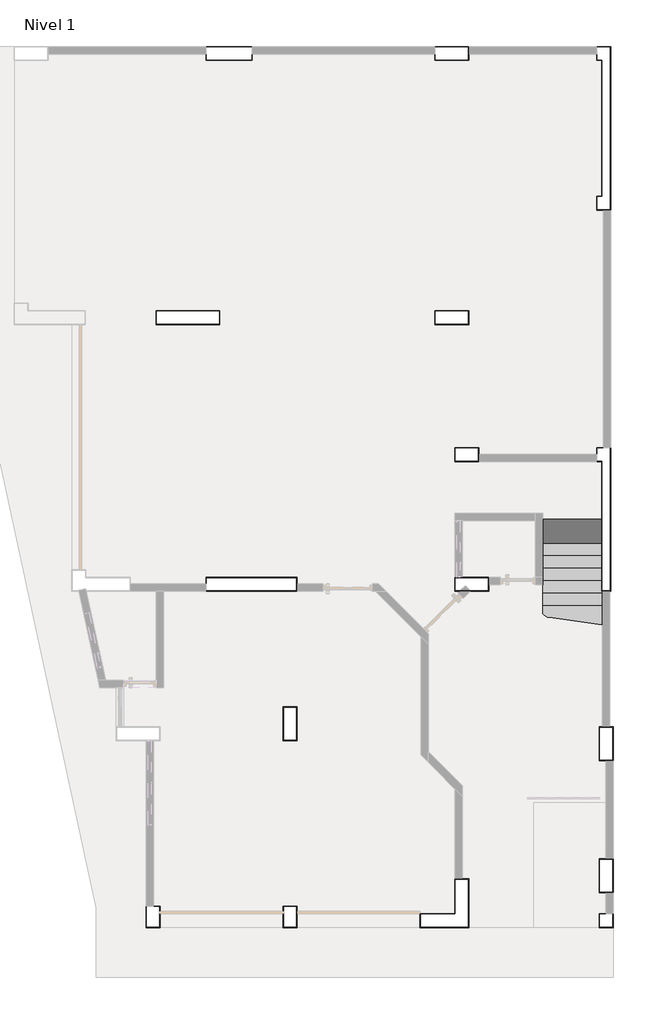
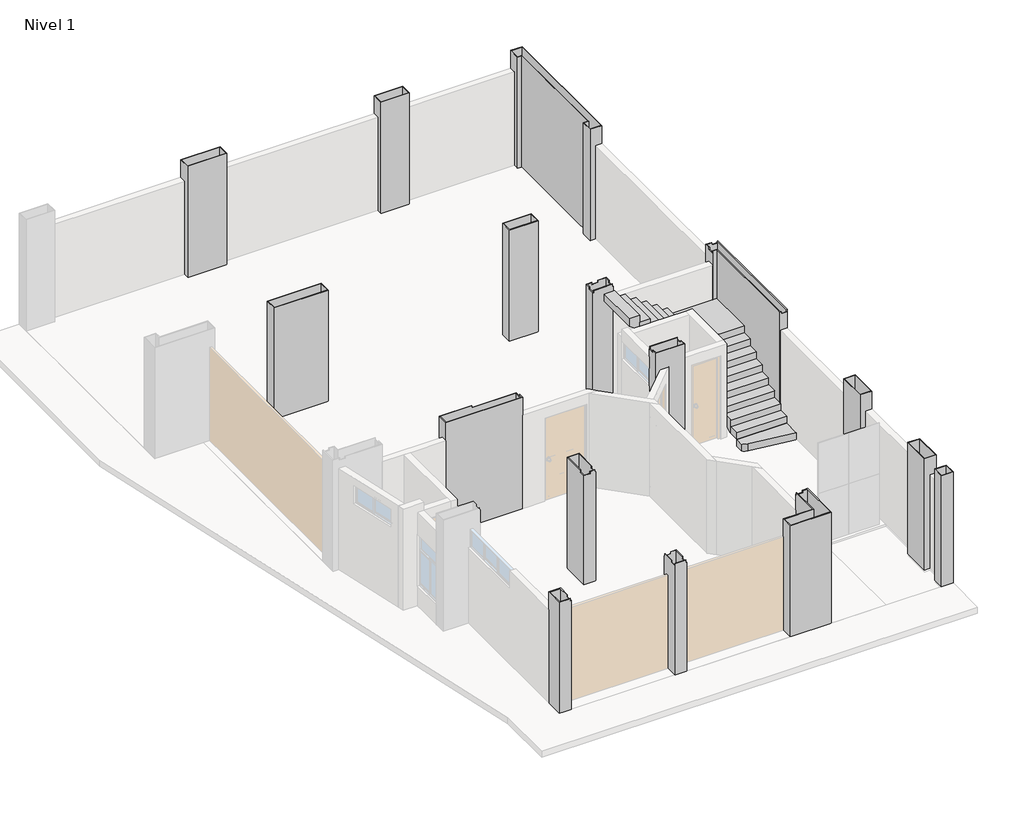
# One storey, part 2 of 2: 16 columns, 1 stair flight.
"""IFC4 building model written with IfcOpenShell, lengths in millimetres."""

import ifcopenshell
import ifcopenshell.guid

model = None  # the IFC model being written
_history = None  # IfcOwnerHistory: only IFC2X3 demands one
_inside = {}  # id of a spatial element -> (the spatial element, [elements in it])
_under = {}  # id of a project, library or spatial element -> (it, [spatial elements below it])
_declared = {}  # id of a project -> (the project, [libraries it declares])
_typed = {}  # id of a type object -> (the type object, [elements of that type])
_made_of = {}  # id of a material, layer set ... -> (it, [elements and type objects made of it])


def new_model(schema):
    """Start an empty IFC model of exactly this schema.

    Asked for "IFC4X3", IfcOpenShell would pick the latest addendum, in which some entities
    have other attributes; the version numbers below select the first issue.
    IFC2X3 requires an IfcOwnerHistory on every rooted entity: one is made here for all.
    """
    global model, _history
    if schema == "IFC4X3":
        model = ifcopenshell.file(schema_version=(4, 3, 0, 0))
    else:
        model = ifcopenshell.file(schema=schema)
    _inside.clear()
    _under.clear()
    _declared.clear()
    _typed.clear()
    _made_of.clear()
    _history = None
    if model.schema == "IFC2X3":
        org = make("IfcOrganization", Name="unknown")
        user = make(
            "IfcPersonAndOrganization",
            ThePerson=make("IfcPerson", FamilyName="unknown"),
            TheOrganization=org,
        )
        app = make(
            "IfcApplication",
            ApplicationDeveloper=org,
            Version="unknown",
            ApplicationFullName="unknown",
            ApplicationIdentifier="unknown",
        )
        _history = make(
            "IfcOwnerHistory",
            OwningUser=user,
            OwningApplication=app,
            ChangeAction="ADDED",
            CreationDate=0,
        )
    return model


def make(cls, **values):
    """One entity of the class cls with the attributes given. An attribute that is None is left unset."""
    return model.create_entity(
        cls, **{name: value for name, value in values.items() if value is not None}
    )


def rooted(cls, **values):
    """An entity with a GlobalId (a new one), such as an element, a storey or a relation."""
    return make(cls, GlobalId=ifcopenshell.guid.new(), OwnerHistory=_history, **values)


def si_unit(unit_type, name, prefix=None):
    """IfcSIUnit, for example si_unit("LENGTHUNIT", "METRE", prefix="MILLI")."""
    return make("IfcSIUnit", UnitType=unit_type, Prefix=prefix, Name=name)


def assignment(units):
    """IfcUnitAssignment: the units of a project."""
    return None if units is None else make("IfcUnitAssignment", Units=units)


def point(xyz):
    """IfcCartesianPoint."""
    return None if xyz is None else make("IfcCartesianPoint", Coordinates=xyz)


def direction(xyz):
    """IfcDirection."""
    return None if xyz is None else make("IfcDirection", DirectionRatios=xyz)


def frame(location, z_axis=None, x_axis=None):
    """IfcAxis2Placement3D, a coordinate frame: its origin and axes. An axis left out is left unset."""
    return make(
        "IfcAxis2Placement3D",
        Location=point(location),
        Axis=direction(z_axis),
        RefDirection=direction(x_axis),
    )


def origin():
    """The frame at (0, 0, 0) with its axes left unset."""
    return frame((0.0, 0.0, 0.0))


def place(relative_to, where):
    """IfcLocalPlacement: puts the frame where relative to a parent placement (None: the world)."""
    return make(
        "IfcLocalPlacement", PlacementRelTo=relative_to, RelativePlacement=where
    )


def context(
    kind, dimensions, precision=None, world=None, true_north=None, identifier=None
):
    """IfcGeometricRepresentationContext, for example the 3D "Model" context."""
    return make(
        "IfcGeometricRepresentationContext",
        ContextIdentifier=identifier,
        ContextType=kind,
        CoordinateSpaceDimension=dimensions,
        Precision=precision,
        WorldCoordinateSystem=world,
        TrueNorth=true_north,
    )


def project(units=None, contexts=None):
    """IfcProject with its units and contexts."""
    return rooted(
        "IfcProject",
        Name="project",
        RepresentationContexts=contexts,
        UnitsInContext=assignment(units),
    )


def spatial(cls, under=None, at=None, **own):
    """A site, building, storey or space (cls), placed at a placement, below another one or the project."""
    s = rooted(cls, ObjectPlacement=at, **own)
    if under is not None:
        _under.setdefault(under.id(), (under, []))[1].append(s)
    return s


def circle_curve(where, radius):
    """IfcCircle in the frame where."""
    return make("IfcCircle", Position=where, Radius=radius)


def faces_of(points, faces, orient=None, outer=None):
    """IfcFace entities. A face is a list of loops; a loop is a list of indices into points, from 0.

    orient and outer hold one flag for each loop. By default every Orientation is true, the
    first loop of a face is its IfcFaceOuterBound and the others are IfcFaceBound.
    """
    made = []
    for i, loops in enumerate(faces):
        bounds = []
        for j, loop in enumerate(loops):
            is_outer = j == 0 if outer is None else outer[i][j]
            bounds.append(
                make(
                    "IfcFaceOuterBound" if is_outer else "IfcFaceBound",
                    Bound=make("IfcPolyLoop", Polygon=[points[k] for k in loop]),
                    Orientation=True if orient is None else orient[i][j],
                )
            )
        made.append(make("IfcFace", Bounds=bounds))
    return made


def faceted_brep(points, faces, orient=None, outer=None, voids=None):
    """IfcFacetedBrep: a solid bounded by flat faces; with voids (closed shells), ...WithVoids."""
    shared = [point(p) for p in points]
    hull = make("IfcClosedShell", CfsFaces=faces_of(shared, faces, orient, outer))
    if voids is None:
        return make("IfcFacetedBrep", Outer=hull)
    return make(
        "IfcFacetedBrepWithVoids",
        Outer=hull,
        Voids=[
            make(cls, CfsFaces=faces_of(shared, fs, o, b)) for cls, fs, o, b in voids
        ],
    )


def shape(context_of_items, identifier, shape_type, items):
    """IfcShapeRepresentation: the items that make up one representation, for example the "Body"."""
    return make(
        "IfcShapeRepresentation",
        ContextOfItems=context_of_items,
        RepresentationIdentifier=identifier,
        RepresentationType=shape_type,
        Items=items,
    )


def made_of(thing, what):
    """Note that an element or type object is made of a material, layer set ...; save() writes the relation."""
    if what is not None:
        _made_of.setdefault(what.id(), (what, []))[1].append(thing)
    return thing


def element(
    cls,
    number,
    at=None,
    inside=None,
    cuts=None,
    type_object=None,
    material=None,
    context=None,
    identifier="Body",
    shape_type=None,
    held_by="IfcProductDefinitionShape",
    body=None,
    shapes=None,
    **own,
):
    """One element of the class cls, such as IfcWall. Its Tag is "e" and its number.

    at: its placement. inside: the storey or other place that contains it. cuts: it is an
    opening in that element (IfcRelVoidsElement). A single representation is given by context,
    identifier, shape_type and body (its items); several are given by shapes. held_by: the class
    of the entity that holds the representations. save() writes the other relations.
    """
    e = rooted(cls, Tag="e%d" % number, ObjectPlacement=at, **own)
    if body is not None:
        shapes = [shape(context, identifier, shape_type, body)]
    if shapes is not None:
        e.Representation = make(held_by, Representations=shapes)
    if inside is not None:
        _inside.setdefault(inside.id(), (inside, []))[1].append(e)
    if cuts is not None:
        rooted(
            "IfcRelVoidsElement", RelatingBuildingElement=cuts, RelatedOpeningElement=e
        )
    if type_object is not None:
        _typed.setdefault(type_object.id(), (type_object, []))[1].append(e)
    return made_of(e, material)


def aggregate(whole, parts):
    """IfcRelAggregates: a whole, such as a stair, and the parts it consists of."""
    return rooted("IfcRelAggregates", RelatingObject=whole, RelatedObjects=parts)


def save(model, path):
    """Write the relations noted so far, then the file.

    IfcRelAggregates (storeys below a building ...), IfcRelContainedInSpatialStructure (elements
    in a storey), IfcRelDefinesByType, IfcRelAssociatesMaterial and IfcRelDeclares: one each for
    every whole, place, type object, material and project.
    """
    for whole, parts in _under.values():
        aggregate(whole, parts)
    for where, things in _inside.values():
        rooted(
            "IfcRelContainedInSpatialStructure",
            RelatedElements=things,
            RelatingStructure=where,
        )
    for kind, things in _typed.values():
        rooted("IfcRelDefinesByType", RelatedObjects=things, RelatingType=kind)
    for what, things in _made_of.values():
        rooted("IfcRelAssociatesMaterial", RelatedObjects=things, RelatingMaterial=what)
    for by, libraries in _declared.values():
        rooted("IfcRelDeclares", RelatingContext=by, RelatedDefinitions=libraries)
    model.write(path)


def plane_surface(at):
    """IfcPlane: the flat surface through the origin of the frame at, square to its z axis."""
    return make("IfcPlane", Position=at)


def cylinder_surface(at, radius):
    """IfcCylindricalSurface: all points at the distance radius from the z axis of the frame at."""
    return make("IfcCylindricalSurface", Position=at, Radius=radius)


def advanced_brep(points, edges, surfaces, faces):
    """IfcAdvancedBrep: a solid bounded by faces that lie on surfaces and meet in shared edges.

    An edge is (start, end): straight between two places in points (the first is 0);
    or (start, end, curve); or (start, end, curve, False) where it runs against its curve.
    A face is (place in surfaces, loops), or (place, loops, False) where it looks against
    its surface's normal. A loop lists edges by number (the first is 1), with a minus sign
    where the edge is run from its end to its start. The first loop is the outer one.
    """
    corners = [point(p) for p in points]
    vertices = [make("IfcVertexPoint", VertexGeometry=c) for c in corners]
    made = []
    for start, end, *more in edges:
        made.append(
            make(
                "IfcEdgeCurve",
                EdgeStart=vertices[start],
                EdgeEnd=vertices[end],
                EdgeGeometry=more[0] if more else make("IfcPolyline", Points=[corners[start], corners[end]]),
                SameSense=more[1] if len(more) > 1 else True,
            )
        )
    hull = []
    for where, loops, *sense in faces:
        bounds = []
        for j, loop in enumerate(loops):
            ring = [make("IfcOrientedEdge", EdgeElement=made[abs(k) - 1], Orientation=k > 0) for k in loop]
            bounds.append(
                make(
                    "IfcFaceOuterBound" if j == 0 else "IfcFaceBound",
                    Bound=make("IfcEdgeLoop", EdgeList=ring),
                    Orientation=True,
                )
            )
        hull.append(make("IfcAdvancedFace", Bounds=bounds, FaceSurface=surfaces[where], SameSense=sense[0] if sense else True))
    return make("IfcAdvancedBrep", Outer=make("IfcClosedShell", CfsFaces=hull))


model = new_model("IFC4")

# Units and contexts
model_context = context("Model", 3, world=origin())
ifc_project = project(units=[si_unit("LENGTHUNIT", "METRE", prefix="MILLI")], contexts=[model_context])

# Site, building, storey
site = spatial("IfcSite", under=ifc_project)
building = spatial("IfcBuilding", under=site)
storey = spatial("IfcBuildingStorey", under=building, Name="Nivel 1", Elevation=0.0)

# Columns
placement = place(None, origin())
element("IfcColumn", 1, ObjectType="Columna U Arquitectonica : Columna U Arquitectonica", at=placement, inside=storey, context=model_context, shape_type="Brep", body=[
    faceted_brep([(9035.0, 14665.0, 0.0), (9135.0, 14665.0, 0.0), (9135.0, 17385.0, 0.0), (9035.0, 17385.0, 0.0), (9035.0, 17515.0, 0.0), (9035.0, 17665.0, 0.0), (9315.0, 17665.0, 0.0), (9315.0, 14385.0, 0.0), (9165.0, 14385.0, 0.0), (9035.0, 14385.0, 0.0), (9050.0, 14650.0, 0.0), (9050.0, 14400.0, 0.0), (9300.0, 14400.0, 0.0), (9300.0, 17650.0, 0.0), (9050.0, 17650.0, 0.0), (9050.0, 17400.0, 0.0), (9150.0, 17400.0, 0.0), (9150.0, 14650.0, 0.0), (9150.0, 14650.0, 2800.0), (9050.0, 14650.0, 2800.0), (9150.0, 17400.0, 2800.0), (9050.0, 17400.0, 2800.0), (9050.0, 17650.0, 2800.0), (9300.0, 17650.0, 2800.0), (9300.0, 14400.0, 2800.0), (9050.0, 14400.0, 2800.0), (9035.0, 14665.0, 2800.0), (9035.0, 14385.0, 2800.0), (9315.0, 14385.0, 2800.0), (9315.0, 17665.0, 2800.0), (9035.0, 17665.0, 2800.0), (9035.0, 17385.0, 2800.0), (9135.0, 17385.0, 2800.0), (9135.0, 14665.0, 2800.0), (9035.0, 17665.0, 2750.0), (9035.0, 17665.0, 2350.0), (9315.0, 14385.0, 2750.0), (9315.0, 14385.0, 2350.0), (9035.0, 14385.0, 2750.0)], [[[0, 1, 2, 3, 4, 5, 6, 7, 8, 9], [10, 11, 12, 13, 14, 15, 16, 17]], [[18, 19, 10, 17]], [[20, 18, 17, 16]], [[21, 20, 16, 15]], [[22, 21, 15, 14]], [[23, 22, 14, 13]], [[24, 23, 13, 12]], [[25, 24, 12, 11]], [[19, 25, 11, 10]], [[26, 27, 28, 29, 30, 31, 32, 33], [19, 18, 20, 21, 22, 23, 24, 25]], [[26, 33, 1, 0]], [[33, 32, 2, 1]], [[32, 31, 3, 2]], [[31, 30, 34, 35, 5, 4, 3]], [[30, 29, 6, 5, 35, 34]], [[29, 28, 36, 37, 7, 6]], [[28, 27, 38, 9, 8, 7, 37, 36]], [[27, 26, 0, 9, 38]]]),
])
element("IfcColumn", 2, ObjectType="Columna L Arquitectonica : ACO_L 25x285x25x15 cm", at=placement, inside=storey, context=model_context, shape_type="Brep", body=[
    faceted_brep([(9135.0, 6735.0, 0.0), (9135.0, 9335.0, 0.0), (9035.0, 9335.0, 0.0), (9035.0, 9485.0, 0.0), (9035.0, 9615.0, 0.0), (9165.0, 9615.0, 0.0), (9315.0, 9615.0, 0.0), (9315.0, 6735.0, 0.0), (9300.0, 6735.0, 0.0), (9150.0, 6735.0, 0.0), (9150.0, 6750.0, 0.0), (9300.0, 6750.0, 0.0), (9300.0, 9600.0, 0.0), (9050.0, 9600.0, 0.0), (9050.0, 9350.0, 0.0), (9150.0, 9350.0, 0.0), (9150.0, 6750.0, 2800.0), (9165.0, 6750.0, 2800.0), (9165.0, 6750.0, 2750.0), (9300.0, 6750.0, 2750.0), (9300.0, 6750.0, 2800.0), (9300.0, 9600.0, 2800.0), (9300.0, 9600.0, 2750.0), (9165.0, 9600.0, 2750.0), (9165.0, 9600.0, 2800.0), (9050.0, 9600.0, 2800.0), (9050.0, 9485.0, 2800.0), (9050.0, 9485.0, 2750.0), (9050.0, 9350.0, 2750.0), (9050.0, 9350.0, 2800.0), (9150.0, 9350.0, 2800.0), (9135.0, 6735.0, 2800.0), (9135.0, 6865.0, 2800.0), (9135.0, 7015.0, 2800.0), (9135.0, 9335.0, 2800.0), (9050.0, 9335.0, 2800.0), (9050.0, 9335.0, 2750.0), (9035.0, 9335.0, 2750.0), (9035.0, 9335.0, 2450.0), (9035.0, 9485.0, 2750.0), (9035.0, 9485.0, 2800.0), (9035.0, 9615.0, 2800.0), (9165.0, 9615.0, 2800.0), (9165.0, 9615.0, 2750.0), (9315.0, 9615.0, 2750.0), (9315.0, 9615.0, 2350.0), (9315.0, 9600.0, 2750.0), (9315.0, 9600.0, 2800.0), (9315.0, 6750.0, 2800.0), (9315.0, 6750.0, 2750.0), (9315.0, 6735.0, 2750.0), (9165.0, 6735.0, 2750.0), (9165.0, 6735.0, 2800.0)], [[[0, 1, 2, 3, 4, 5, 6, 7, 8, 9], [10, 11, 12, 13, 14, 15]], [[11, 10, 16, 17, 18, 19]], [[12, 11, 19, 20, 21, 22]], [[13, 12, 22, 23, 24, 25]], [[14, 13, 25, 26, 27, 28]], [[15, 14, 28, 29, 30]], [[10, 15, 30, 16]], [[1, 0, 31, 32, 33, 34]], [[2, 1, 34, 35, 36, 37, 38]], [[4, 3, 2, 38, 37, 39, 40, 41]], [[6, 5, 4, 41, 42, 43, 44, 45]], [[7, 6, 45, 44, 46, 47, 48, 49, 50]], [[0, 9, 8, 7, 50, 51, 52, 31]], [[21, 20, 48, 47]], [[51, 18, 17, 52]], [[49, 19, 18, 51, 50]], [[19, 49, 48, 20]], [[23, 43, 42, 24]], [[22, 46, 44, 43, 23]], [[46, 22, 21, 47]], [[30, 29, 35, 34, 33, 32, 31, 52, 17, 16]], [[39, 27, 26, 40]], [[36, 28, 27, 39, 37]], [[28, 36, 35, 29]], [[25, 24, 42, 41, 40, 26]]]),
])
element("IfcColumn", 3, ObjectType="Columna L Arquitectonica : ACO_L 95x95x25 cm", at=placement, inside=storey, context=model_context, shape_type="Brep", body=[
    faceted_brep([(5485.0, 265.0, 0.0), (6185.0, 265.0, 0.0), (6185.0, 965.0, 0.0), (6335.0, 965.0, 0.0), (6465.0, 965.0, 0.0), (6465.0, -15.0, 0.0), (5485.0, -15.0, 0.0), (5500.0, 250.0, 0.0), (5500.0, 0.0, 0.0), (6450.0, 0.0, 0.0), (6450.0, 950.0, 0.0), (6200.0, 950.0, 0.0), (6200.0, 250.0, 0.0), (5500.0, 250.0, 2800.0), (5500.0, 0.0, 2800.0), (6450.0, 0.0, 2800.0), (6450.0, 950.0, 2800.0), (6335.0, 950.0, 2800.0), (6335.0, 950.0, 2750.0), (6200.0, 950.0, 2750.0), (6200.0, 950.0, 2800.0), (6200.0, 250.0, 2800.0), (5485.0, 265.0, 2800.0), (6185.0, 265.0, 2800.0), (6185.0, 950.0, 2800.0), (6185.0, 950.0, 2750.0), (6185.0, 965.0, 2750.0), (6185.0, 965.0, 2350.0), (6335.0, 965.0, 2750.0), (6335.0, 965.0, 2800.0), (6465.0, 965.0, 2800.0), (6465.0, -15.0, 2800.0), (6465.0, -15.0, 2750.0), (5485.0, -15.0, 2800.0), (5485.0, -15.0, 2750.0)], [[[0, 1, 2, 3, 4, 5, 6], [7, 8, 9, 10, 11, 12]], [[8, 7, 13, 14]], [[9, 8, 14, 15]], [[10, 9, 15, 16]], [[11, 10, 16, 17, 18, 19]], [[12, 11, 19, 20, 21]], [[7, 12, 21, 13]], [[1, 0, 22, 23]], [[2, 1, 23, 24, 25, 26, 27]], [[4, 3, 2, 27, 26, 28, 29, 30]], [[5, 4, 30, 31, 32]], [[6, 5, 32, 31, 33, 34]], [[0, 6, 34, 33, 22]], [[14, 13, 21, 20, 24, 23, 22, 33, 31, 30, 29, 17, 16, 15]], [[28, 18, 17, 29]], [[25, 19, 18, 28, 26]], [[19, 25, 24, 20]]]),
])
element("IfcColumn", 4, ObjectType="Columna Rectangular Arquitectonica : ACO_Rectangular 25x125 cm", at=placement, inside=storey, context=model_context, shape_type="Brep", body=[
    faceted_brep([(185.0, 12365.0, 0.0), (1465.0, 12365.0, 0.0), (1465.0, 12085.0, 0.0), (185.0, 12085.0, 0.0), (200.0, 12350.0, 0.0), (200.0, 12100.0, 0.0), (1450.0, 12100.0, 0.0), (1450.0, 12350.0, 0.0), (200.0, 12350.0, 2800.0), (200.0, 12100.0, 2800.0), (1450.0, 12100.0, 2800.0), (1450.0, 12350.0, 2800.0), (185.0, 12365.0, 2800.0), (1465.0, 12365.0, 2800.0), (185.0, 12365.0, 2750.0), (1465.0, 12085.0, 2800.0), (185.0, 12085.0, 2800.0)], [[[0, 1, 2, 3], [4, 5, 6, 7]], [[8, 9, 5, 4]], [[9, 10, 6, 5]], [[10, 11, 7, 6]], [[11, 8, 4, 7]], [[12, 13, 1, 0, 14]], [[13, 15, 2, 1]], [[15, 16, 3, 2]], [[16, 12, 14, 0, 3]], [[12, 16, 15, 13], [8, 11, 10, 9]]]),
])
element("IfcColumn", 5, ObjectType="Columna Rectangular Arquitectonica : ACO_Rectangular 25x180 cm", at=placement, inside=storey, context=model_context, shape_type="Brep", body=[
    faceted_brep([(1185.0, 7015.0, 0.0), (3015.0, 7015.0, 0.0), (3015.0, 6885.0, 0.0), (3015.0, 6735.0, 0.0), (1185.0, 6735.0, 0.0), (1185.0, 6885.0, 0.0), (1200.0, 7000.0, 0.0), (1200.0, 6750.0, 0.0), (3000.0, 6750.0, 0.0), (3000.0, 7000.0, 0.0), (1200.0, 7000.0, 2800.0), (1200.0, 6750.0, 2800.0), (3000.0, 6750.0, 2800.0), (3000.0, 6865.0, 2800.0), (3000.0, 6865.0, 2750.0), (3000.0, 7000.0, 2750.0), (1950.0, 7000.0, 2750.0), (1950.0, 7000.0, 2800.0), (1185.0, 7015.0, 2750.0), (1185.0, 7015.0, 2800.0), (1950.0, 7015.0, 2800.0), (1950.0, 7015.0, 2750.0), (3015.0, 7015.0, 2750.0), (3015.0, 6865.0, 2750.0), (3015.0, 6865.0, 2800.0), (3015.0, 6735.0, 2800.0), (3015.0, 6735.0, 2350.0), (1185.0, 6735.0, 2800.0), (1185.0, 6735.0, 2350.0)], [[[0, 1, 2, 3, 4, 5], [6, 7, 8, 9]], [[7, 6, 10, 11]], [[8, 7, 11, 12]], [[9, 8, 12, 13, 14, 15]], [[6, 9, 15, 16, 17, 10]], [[1, 0, 18, 19, 20, 21, 22]], [[3, 2, 1, 22, 23, 24, 25, 26]], [[4, 3, 26, 25, 27, 28]], [[0, 5, 4, 28, 27, 19, 18]], [[11, 10, 17, 20, 19, 27, 25, 24, 13, 12]], [[23, 14, 13, 24]], [[14, 23, 22, 21, 16, 15]], [[16, 21, 20, 17]]]),
])
element("IfcColumn", 6, ObjectType="Columna Rectangular Arquitectonica : ACO_Rectangular 25x25 cm", at=placement, inside=storey, context=model_context, shape_type="Brep", body=[
    faceted_brep([(9085.0, -15.0, 0.0), (9085.0, 265.0, 0.0), (9215.0, 265.0, 0.0), (9365.0, 265.0, 0.0), (9365.0, -15.0, 0.0), (9100.0, 0.0, 0.0), (9350.0, 0.0, 0.0), (9350.0, 250.0, 0.0), (9100.0, 250.0, 0.0), (9100.0, 0.0, 2800.0), (9350.0, 0.0, 2800.0), (9350.0, 250.0, 2800.0), (9100.0, 250.0, 2800.0), (9085.0, -15.0, 2800.0), (9085.0, 265.0, 2800.0), (9085.0, -15.0, 2750.0), (9365.0, 265.0, 2800.0), (9365.0, 265.0, 2750.0), (9365.0, 265.0, 2350.0), (9365.0, -15.0, 2800.0)], [[[0, 1, 2, 3, 4], [5, 6, 7, 8]], [[9, 10, 6, 5]], [[10, 11, 7, 6]], [[11, 12, 8, 7]], [[12, 9, 5, 8]], [[13, 14, 1, 0, 15]], [[14, 16, 17, 18, 3, 2, 1]], [[16, 19, 4, 3, 18, 17]], [[19, 13, 15, 0, 4]], [[13, 19, 16, 14], [9, 12, 11, 10]]]),
])
element("IfcColumn", 7, ObjectType="Columna Rectangular Arquitectonica : ACO_Rectangular 25x40 cm", at=placement, inside=storey, context=model_context, shape_type="Brep", body=[
    faceted_brep([(2735.0, -15.0, 0.0), (2735.0, 415.0, 0.0), (3015.0, 415.0, 0.0), (3015.0, -15.0, 0.0), (2750.0, 0.0, 0.0), (3000.0, 0.0, 0.0), (3000.0, 400.0, 0.0), (2750.0, 400.0, 0.0), (2750.0, 0.0, 2750.0), (2750.0, 0.0, 2800.0), (3000.0, 0.0, 2800.0), (3000.0, 0.0, 2750.0), (3000.0, 135.0, 2750.0), (3000.0, 135.0, 2800.0), (3000.0, 400.0, 2800.0), (2885.0, 400.0, 2800.0), (2885.0, 400.0, 2750.0), (2750.0, 400.0, 2750.0), (2750.0, 400.0, 2800.0), (2750.0, 135.0, 2800.0), (2750.0, 135.0, 2750.0), (2735.0, -15.0, 2750.0), (2735.0, 135.0, 2750.0), (2735.0, 135.0, 2800.0), (2735.0, 400.0, 2800.0), (2735.0, 400.0, 2750.0), (2735.0, 415.0, 2750.0), (2885.0, 415.0, 2750.0), (2885.0, 415.0, 2800.0), (3015.0, 415.0, 2800.0), (3015.0, 135.0, 2800.0), (3015.0, 135.0, 2750.0), (3015.0, -15.0, 2750.0), (3000.0, -15.0, 2750.0), (3000.0, -15.0, 2800.0), (2750.0, -15.0, 2800.0), (2750.0, -15.0, 2750.0)], [[[0, 1, 2, 3], [4, 5, 6, 7]], [[5, 4, 8, 9, 10, 11]], [[6, 5, 11, 12, 13, 14]], [[7, 6, 14, 15, 16, 17]], [[4, 7, 17, 18, 19, 20, 8]], [[1, 0, 21, 22, 23, 24, 25, 26]], [[2, 1, 26, 27, 28, 29]], [[3, 2, 29, 30, 31, 32]], [[0, 3, 32, 33, 34, 35, 36, 21]], [[10, 9, 35, 34]], [[27, 16, 15, 28]], [[25, 17, 16, 27, 26]], [[17, 25, 24, 18]], [[22, 20, 19, 23]], [[36, 8, 20, 22, 21]], [[8, 36, 35, 9]], [[12, 31, 30, 13]], [[11, 33, 32, 31, 12]], [[33, 11, 10, 34]], [[15, 14, 13, 30, 29, 28]], [[18, 24, 23, 19]]]),
])
element("IfcColumn", 8, ObjectType="Columna Rectangular Arquitectonica : ACO_Rectangular 25x40 cm", at=placement, inside=storey, context=model_context, shape_type="Brep", body=[
    faceted_brep([(-15.0, -15.0, 0.0), (-15.0, 415.0, 0.0), (135.0, 415.0, 0.0), (265.0, 415.0, 0.0), (265.0, -15.0, 0.0), (0.0, 0.0, 0.0), (250.0, 0.0, 0.0), (250.0, 400.0, 0.0), (0.0, 400.0, 0.0), (0.0, 0.0, 2800.0), (250.0, 0.0, 2800.0), (250.0, 0.0, 2750.0), (250.0, 135.0, 2750.0), (250.0, 135.0, 2800.0), (250.0, 400.0, 2800.0), (0.0, 400.0, 2800.0), (-15.0, -15.0, 2800.0), (-15.0, 415.0, 2800.0), (-15.0, 415.0, 2750.0), (-15.0, 415.0, 2350.0), (265.0, 415.0, 2800.0), (265.0, 135.0, 2800.0), (265.0, 135.0, 2750.0), (265.0, -15.0, 2750.0), (250.0, -15.0, 2750.0), (250.0, -15.0, 2800.0)], [[[0, 1, 2, 3, 4], [5, 6, 7, 8]], [[6, 5, 9, 10, 11]], [[7, 6, 11, 12, 13, 14]], [[8, 7, 14, 15]], [[5, 8, 15, 9]], [[1, 0, 16, 17, 18, 19]], [[3, 2, 1, 19, 18, 17, 20]], [[4, 3, 20, 21, 22, 23]], [[0, 4, 23, 24, 25, 16]], [[10, 9, 15, 14, 13, 21, 20, 17, 16, 25]], [[12, 22, 21, 13]], [[11, 24, 23, 22, 12]], [[24, 11, 10, 25]]]),
])
element("IfcColumn", 9, ObjectType="Columna Rectangular Arquitectonica : ACO_Rectangular 25x45 cm", at=placement, inside=storey, context=model_context, shape_type="Brep", body=[
    faceted_brep([(6185.0, 9615.0, 0.0), (6665.0, 9615.0, 0.0), (6665.0, 9485.0, 0.0), (6665.0, 9335.0, 0.0), (6185.0, 9335.0, 0.0), (6200.0, 9600.0, 0.0), (6200.0, 9350.0, 0.0), (6650.0, 9350.0, 0.0), (6650.0, 9600.0, 0.0), (6200.0, 9600.0, 2800.0), (6200.0, 9485.0, 2800.0), (6200.0, 9485.0, 2750.0), (6200.0, 9350.0, 2750.0), (6200.0, 9350.0, 2800.0), (6650.0, 9350.0, 2800.0), (6650.0, 9350.0, 2750.0), (6650.0, 9485.0, 2750.0), (6650.0, 9485.0, 2800.0), (6650.0, 9600.0, 2800.0), (6465.0, 9600.0, 2800.0), (6465.0, 9600.0, 2750.0), (6315.0, 9600.0, 2750.0), (6315.0, 9600.0, 2800.0), (6185.0, 9615.0, 2800.0), (6315.0, 9615.0, 2800.0), (6315.0, 9615.0, 2750.0), (6465.0, 9615.0, 2750.0), (6465.0, 9615.0, 2800.0), (6665.0, 9615.0, 2800.0), (6665.0, 9485.0, 2800.0), (6665.0, 9485.0, 2750.0), (6665.0, 9335.0, 2750.0), (6665.0, 9335.0, 2450.0), (6650.0, 9335.0, 2750.0), (6650.0, 9335.0, 2800.0), (6200.0, 9335.0, 2800.0), (6200.0, 9335.0, 2750.0), (6185.0, 9335.0, 2750.0), (6185.0, 9485.0, 2750.0), (6185.0, 9485.0, 2800.0)], [[[0, 1, 2, 3, 4], [5, 6, 7, 8]], [[6, 5, 9, 10, 11, 12]], [[7, 6, 12, 13, 14, 15]], [[8, 7, 15, 16, 17, 18]], [[5, 8, 18, 19, 20, 21, 22, 9]], [[1, 0, 23, 24, 25, 26, 27, 28]], [[3, 2, 1, 28, 29, 30, 31, 32]], [[4, 3, 32, 31, 33, 34, 35, 36, 37]], [[0, 4, 37, 38, 39, 23]], [[14, 13, 35, 34]], [[26, 20, 19, 27]], [[21, 25, 24, 22]], [[20, 26, 25, 21]], [[38, 11, 10, 39]], [[36, 12, 11, 38, 37]], [[12, 36, 35, 13]], [[16, 30, 29, 17]], [[15, 33, 31, 30, 16]], [[33, 15, 14, 34]], [[19, 18, 17, 29, 28, 27]], [[10, 9, 22, 24, 23, 39]]]),
])
element("IfcColumn", 10, ObjectType="Columna Rectangular Arquitectonica : ACO_Rectangular 25x65 cm", at=placement, inside=storey, context=model_context, shape_type="Brep", body=[
    faceted_brep([(5785.0, 17665.0, 0.0), (6465.0, 17665.0, 0.0), (6465.0, 17515.0, 0.0), (6465.0, 17385.0, 0.0), (5785.0, 17385.0, 0.0), (5785.0, 17515.0, 0.0), (5800.0, 17650.0, 0.0), (5800.0, 17400.0, 0.0), (6450.0, 17400.0, 0.0), (6450.0, 17650.0, 0.0), (5800.0, 17650.0, 2800.0), (5800.0, 17400.0, 2800.0), (6450.0, 17400.0, 2800.0), (6450.0, 17650.0, 2800.0), (5785.0, 17665.0, 2800.0), (6465.0, 17665.0, 2800.0), (6465.0, 17665.0, 2750.0), (6465.0, 17665.0, 2350.0), (5785.0, 17665.0, 2350.0), (5785.0, 17665.0, 2750.0), (6465.0, 17385.0, 2800.0), (5785.0, 17385.0, 2800.0), (5785.0, 17385.0, 2750.0)], [[[0, 1, 2, 3, 4, 5], [6, 7, 8, 9]], [[10, 11, 7, 6]], [[11, 12, 8, 7]], [[12, 13, 9, 8]], [[13, 10, 6, 9]], [[14, 15, 16, 17, 1, 0, 18, 19]], [[15, 20, 3, 2, 1, 17, 16]], [[20, 21, 22, 4, 3]], [[21, 14, 19, 18, 0, 5, 4, 22]], [[14, 21, 20, 15], [10, 13, 12, 11]]]),
])
element("IfcColumn", 11, ObjectType="Columna Rectangular Arquitectonica : ACO_Rectangular 25x65 cm", at=placement, inside=storey, context=model_context, shape_type="Brep", body=[
    faceted_brep([(5785.0, 12365.0, 0.0), (6465.0, 12365.0, 0.0), (6465.0, 12085.0, 0.0), (5785.0, 12085.0, 0.0), (5800.0, 12350.0, 0.0), (5800.0, 12100.0, 0.0), (6450.0, 12100.0, 0.0), (6450.0, 12350.0, 0.0), (5800.0, 12350.0, 2800.0), (5800.0, 12100.0, 2800.0), (6450.0, 12100.0, 2800.0), (6450.0, 12350.0, 2800.0), (5785.0, 12365.0, 2800.0), (6465.0, 12365.0, 2800.0), (6465.0, 12365.0, 2750.0), (5785.0, 12365.0, 2750.0), (6465.0, 12085.0, 2800.0), (6465.0, 12085.0, 2750.0), (5785.0, 12085.0, 2800.0)], [[[0, 1, 2, 3], [4, 5, 6, 7]], [[8, 9, 5, 4]], [[9, 10, 6, 5]], [[10, 11, 7, 6]], [[11, 8, 4, 7]], [[12, 13, 14, 1, 0, 15]], [[13, 16, 17, 2, 1, 14]], [[16, 18, 3, 2, 17]], [[18, 12, 15, 0, 3]], [[12, 18, 16, 13], [8, 11, 10, 9]]]),
])
element("IfcColumn", 12, ObjectType="Columna Rectangular Arquitectonica : ACO_Rectangular 25x65 cm", at=placement, inside=storey, context=model_context, shape_type="Brep", body=[
    faceted_brep([(6185.0, 7015.0, 0.0), (6335.0, 7015.0, 0.0), (6865.0, 7015.0, 0.0), (6865.0, 6865.0, 0.0), (6865.0, 6735.0, 0.0), (6494.3535517, 6735.0, 0.0), (6282.2215174, 6735.0, 0.0), (6185.0, 6735.0, 0.0), (6200.0, 7000.0, 0.0), (6200.0, 6750.0, 0.0), (6297.2215174, 6750.0, 0.0), (6488.7862327, 6750.0, 0.0), (6850.0, 6750.0, 0.0), (6850.0, 7000.0, 0.0), (6200.0, 7000.0, 2750.0), (6200.0, 6865.0, 2750.0), (6200.0, 6865.0, 2800.0), (6200.0, 6750.0, 2800.0), (6850.0, 6750.0, 2800.0), (6850.0, 6865.0, 2800.0), (6850.0, 6865.0, 2750.0), (6850.0, 7000.0, 2750.0), (6850.0, 7000.0, 2800.0), (6200.0, 7000.0, 2800.0), (6185.0, 7015.0, 1800.0), (6185.0, 7015.0, 2250.0), (6185.0, 7015.0, 2550.0), (6185.0, 7015.0, 2750.0), (6200.0, 7015.0, 2750.0), (6200.0, 7015.0, 2800.0), (6850.0, 7015.0, 2800.0), (6850.0, 7015.0, 2750.0), (6865.0, 7015.0, 2750.0), (6865.0, 7015.0, 2350.0), (6865.0, 6865.0, 2750.0), (6865.0, 6865.0, 2800.0), (6865.0, 6735.0, 2800.0), (6185.0, 6735.0, 2800.0), (6185.0, 6865.0, 2800.0), (6185.0, 6865.0, 2750.0)], [[[0, 1, 2, 3, 4, 5, 6, 7], [8, 9, 10, 11, 12, 13]], [[9, 8, 14, 15, 16, 17]], [[12, 11, 10, 9, 17, 18]], [[13, 12, 18, 19, 20, 21]], [[8, 13, 21, 22, 23, 14]], [[2, 1, 0, 24, 25, 26, 27, 28, 29, 30, 31, 32, 33]], [[4, 3, 2, 33, 32, 34, 35, 36]], [[7, 6, 5, 4, 36, 37]], [[0, 7, 37, 38, 39, 27, 26, 25, 24]], [[18, 17, 16, 38, 37, 36, 35, 19]], [[34, 20, 19, 35]], [[31, 21, 20, 34, 32]], [[21, 31, 30, 22]], [[15, 39, 38, 16]], [[14, 28, 27, 39, 15]], [[28, 14, 23, 29]], [[23, 22, 30, 29]]]),
])
element("IfcColumn", 13, ObjectType="Columna Rectangular Arquitectonica : ACO_Rectangular 25x65 cm", at=placement, inside=storey, context=model_context, shape_type="Brep", body=[
    faceted_brep([(2735.0, 3735.0, 0.0), (2735.0, 4415.0, 0.0), (3015.0, 4415.0, 0.0), (3015.0, 3735.0, 0.0), (2750.0, 3750.0, 0.0), (3000.0, 3750.0, 0.0), (3000.0, 4400.0, 0.0), (2750.0, 4400.0, 0.0), (2750.0, 3750.0, 2750.0), (2885.0, 3750.0, 2750.0), (2885.0, 3750.0, 2800.0), (3000.0, 3750.0, 2800.0), (3000.0, 3750.0, 2750.0), (3000.0, 3885.0, 2750.0), (3000.0, 3885.0, 2800.0), (3000.0, 4400.0, 2800.0), (2750.0, 4400.0, 2800.0), (2750.0, 3885.0, 2800.0), (2750.0, 3885.0, 2750.0), (2735.0, 3735.0, 2750.0), (2735.0, 3750.0, 2750.0), (2735.0, 3885.0, 2750.0), (2735.0, 3885.0, 2800.0), (2735.0, 4415.0, 2800.0), (3015.0, 4415.0, 2800.0), (3015.0, 3885.0, 2800.0), (3015.0, 3885.0, 2750.0), (3015.0, 3735.0, 2750.0), (3000.0, 3735.0, 2750.0), (3000.0, 3735.0, 2800.0), (2885.0, 3735.0, 2800.0), (2885.0, 3735.0, 2750.0), (2750.0, 3735.0, 2750.0)], [[[0, 1, 2, 3], [4, 5, 6, 7]], [[5, 4, 8, 9, 10, 11, 12]], [[6, 5, 12, 13, 14, 15]], [[7, 6, 15, 16]], [[4, 7, 16, 17, 18, 8]], [[1, 0, 19, 20, 21, 22, 23]], [[2, 1, 23, 24]], [[3, 2, 24, 25, 26, 27]], [[0, 3, 27, 28, 29, 30, 31, 32, 19]], [[29, 11, 10, 30]], [[13, 26, 25, 14]], [[12, 28, 27, 26, 13]], [[28, 12, 11, 29]], [[21, 18, 17, 22]], [[18, 21, 20, 19, 32, 8]], [[16, 15, 14, 25, 24, 23, 22, 17]], [[9, 31, 30, 10]], [[31, 9, 8, 32]]]),
])
element("IfcColumn", 14, ObjectType="Columna Rectangular Arquitectonica : ACO_Rectangular 25x65 cm", at=placement, inside=storey, context=model_context, shape_type="Brep", body=[
    faceted_brep([(9085.0, 685.0, 0.0), (9085.0, 1365.0, 0.0), (9215.0, 1365.0, 0.0), (9365.0, 1365.0, 0.0), (9365.0, 685.0, 0.0), (9215.0, 685.0, 0.0), (9100.0, 700.0, 0.0), (9350.0, 700.0, 0.0), (9350.0, 1350.0, 0.0), (9100.0, 1350.0, 0.0), (9100.0, 700.0, 2800.0), (9350.0, 700.0, 2800.0), (9350.0, 1350.0, 2800.0), (9100.0, 1350.0, 2800.0), (9085.0, 685.0, 2800.0), (9085.0, 1365.0, 2800.0), (9365.0, 1365.0, 2800.0), (9365.0, 1365.0, 2750.0), (9365.0, 1365.0, 2350.0), (9365.0, 685.0, 2800.0), (9365.0, 685.0, 2750.0), (9365.0, 685.0, 2350.0)], [[[0, 1, 2, 3, 4, 5], [6, 7, 8, 9]], [[10, 11, 7, 6]], [[11, 12, 8, 7]], [[12, 13, 9, 8]], [[13, 10, 6, 9]], [[14, 15, 1, 0]], [[15, 16, 17, 18, 3, 2, 1]], [[16, 19, 20, 21, 4, 3, 18, 17]], [[19, 14, 0, 5, 4, 21, 20]], [[14, 19, 16, 15], [10, 13, 12, 11]]]),
])
element("IfcColumn", 15, ObjectType="Columna Rectangular Arquitectonica : ACO_Rectangular 25x65 cm", at=placement, inside=storey, context=model_context, shape_type="Brep", body=[
    faceted_brep([(9085.0, 3335.0, 0.0), (9085.0, 4015.0, 0.0), (9150.0, 4015.0, 0.0), (9300.0, 4015.0, 0.0), (9365.0, 4015.0, 0.0), (9365.0, 3335.0, 0.0), (9215.0, 3335.0, 0.0), (9100.0, 3350.0, 0.0), (9350.0, 3350.0, 0.0), (9350.0, 4000.0, 0.0), (9100.0, 4000.0, 0.0), (9100.0, 3350.0, 2800.0), (9350.0, 3350.0, 2800.0), (9350.0, 4000.0, 2800.0), (9100.0, 4000.0, 2800.0), (9085.0, 3335.0, 2800.0), (9085.0, 4015.0, 2800.0), (9365.0, 4015.0, 2800.0), (9365.0, 3335.0, 2800.0), (9365.0, 3335.0, 2750.0), (9365.0, 3335.0, 2350.0)], [[[0, 1, 2, 3, 4, 5, 6], [7, 8, 9, 10]], [[11, 12, 8, 7]], [[12, 13, 9, 8]], [[13, 14, 10, 9]], [[14, 11, 7, 10]], [[15, 16, 1, 0]], [[16, 17, 4, 3, 2, 1]], [[17, 18, 19, 20, 5, 4]], [[18, 15, 0, 6, 5, 20, 19]], [[15, 18, 17, 16], [11, 14, 13, 12]]]),
])
element("IfcColumn", 16, ObjectType="Columna Rectangular Arquitectonica : ACO_Rectangular 25x90 cm", at=placement, inside=storey, context=model_context, shape_type="Brep", body=[
    faceted_brep([(1185.0, 17665.0, 0.0), (2115.0, 17665.0, 0.0), (2115.0, 17515.0, 0.0), (2115.0, 17385.0, 0.0), (1185.0, 17385.0, 0.0), (1185.0, 17515.0, 0.0), (1200.0, 17650.0, 0.0), (1200.0, 17400.0, 0.0), (2100.0, 17400.0, 0.0), (2100.0, 17650.0, 0.0), (1200.0, 17650.0, 2800.0), (1200.0, 17400.0, 2800.0), (2100.0, 17400.0, 2800.0), (2100.0, 17650.0, 2800.0), (1185.0, 17665.0, 2800.0), (2115.0, 17665.0, 2800.0), (2115.0, 17665.0, 2750.0), (2115.0, 17665.0, 2350.0), (1185.0, 17665.0, 2350.0), (1185.0, 17665.0, 2750.0), (2115.0, 17385.0, 2800.0), (1185.0, 17385.0, 2800.0), (1185.0, 17385.0, 2750.0)], [[[0, 1, 2, 3, 4, 5], [6, 7, 8, 9]], [[10, 11, 7, 6]], [[11, 12, 8, 7]], [[12, 13, 9, 8]], [[13, 10, 6, 9]], [[14, 15, 16, 17, 1, 0, 18, 19]], [[15, 20, 3, 2, 1, 17, 16]], [[20, 21, 22, 4, 3]], [[21, 14, 19, 18, 0, 5, 4, 22]], [[14, 21, 20, 15], [10, 13, 12, 11]]]),
])

# Stair flight
element("IfcStairFlight", 17, ObjectType="Huella 40 mm Mamperlán 30 mm Contrahuella 15 mm", at=placement, inside=storey, context=model_context, shape_type="SolidModel", body=[
    advanced_brep(
    [(7948.8726271, 6278.9838192, 175.0), (8084.0118651, 6209.2094708, 175.0), (9135.0, 6063.0315211, 175.0), (9135.0, 6093.3203057, 175.0), (9135.0, 6451.9928555, 175.0), (7948.8726271, 6451.9928555, 175.0), (7948.8726271, 6327.2867006, 175.0), (7948.8726271, 6451.9928555, 0.0), (7948.8726271, 6278.9838192, 0.0), (7948.8726271, 6278.9838192, 125.0), (8084.0118651, 6209.2094708, 0.0), (8084.0118651, 6209.2094708, 125.0), (9135.0, 6063.0315211, 125.0), (9135.0, 6063.0315211, 0.0), (9135.0, 6451.9928555, 0.0)],
    [
        (0, 1, circle_curve(frame((8115.5665692, 6436.0810317, 175.0), z_axis=(0.0, 0.0, 1.0), x_axis=(1.0, 0.0, 0.0)), 229.0554616)),
        (1, 2),
        (2, 3),
        (3, 4),
        (4, 5),
        (5, 6),
        (6, 0),
        (5, 7),
        (7, 8),
        (8, 9),
        (9, 0),
        (8, 10, circle_curve(frame((8115.5665692, 6436.0810317, 0.0), z_axis=(0.0, 0.0, 1.0), x_axis=(1.0, 0.0, 0.0)), 229.0554616)),
        (10, 11),
        (11, 1),
        (2, 12),
        (12, 13),
        (13, 14),
        (14, 4),
        (7, 14),
        (13, 10),
    ],
    [
        plane_surface(frame((7948.8726271, 7015.0, 175.0), z_axis=(0.0, 0.0, 1.0), x_axis=(0.0, -1.0, 0.0))),
        plane_surface(frame((7948.8726271, 6451.9928555, 175.0), z_axis=(-1.0, 0.0, 0.0), x_axis=(0.0, 0.0, -1.0))),
        cylinder_surface(frame((8115.5665692, 6436.0810317, -700.0), z_axis=(0.0, 0.0, 1.0), x_axis=(1.0, 0.0, 0.0)), 229.0554616),
        plane_surface(frame((9135.0, 6063.0315211, 175.0), z_axis=(1.0, 0.0, 0.0), x_axis=(0.0, 0.0, -1.0))),
        plane_surface(frame((0.0, 0.0, 0.0), z_axis=(0.0, 0.0, -1.0), x_axis=(1.0, 0.0, 0.0))),
        plane_surface(frame((8084.0118651, 6209.2094708, 175.0), z_axis=(-0.1377601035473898, -0.9904656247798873, 0.0), x_axis=(0.0, 0.0, -1.0))),
        plane_surface(frame((6998.612984, 6451.9928555, 350.0), z_axis=(0.0, 1.0, 0.0), x_axis=(1.0, 0.0, 0.0))),
    ],
    [
        (0, [[1, 2, 3, 4, 5, 6, 7]]),
        (1, [[-6, 8, 9, 10, 11, -7]]),
        (2, [[-1, -11, -10, 12, 13, 14]]),
        (3, [[-3, 15, 16, 17, 18, -4]]),
        (4, [[-9, 19, -17, 20, -12]]),
        (5, [[-2, -14, -13, -20, -16, -15]]),
        (6, [[-19, -8, -5, -18]]),
    ],
),
    faceted_brep([(7948.8726271, 6451.9928555, 350.0), (9135.0, 6451.9928555, 350.0), (9135.0, 6481.9928555, 350.0), (9135.0, 6702.1344193, 350.0), (7948.8726271, 6702.1344193, 350.0), (7948.8726271, 6481.9928555, 350.0), (7948.8726271, 6702.1344193, 192.6522358), (7948.8726271, 6451.9928555, 192.6522358), (7948.8726271, 6451.9928555, 300.0), (9135.0, 6451.9928555, 192.6522358), (9135.0, 6451.9928555, 300.0), (9135.0, 6702.1344193, 192.6522358), (7948.8726271, 6702.1344193, 525.0), (9135.0, 6702.1344193, 525.0), (9135.0, 6732.1344193, 525.0), (9135.0, 6952.133981, 525.0), (7948.8726271, 6952.133981, 525.0), (7948.8726271, 6732.1344193, 525.0), (7948.8726271, 6952.133981, 341.9773024), (7948.8726271, 6738.7954194, 192.6522358), (7948.8726271, 6702.1344193, 475.0), (9135.0, 6702.1344193, 475.0), (9135.0, 6738.7954194, 192.6522358), (9135.0, 6952.133981, 341.9773024), (7948.8726271, 7702.1331685, 1225.0), (9135.0, 7702.1331685, 1225.0), (9135.0, 7732.1331685, 1225.0), (9135.0, 7950.4315966, 1225.0), (7948.8726271, 7950.4315966, 1225.0), (7948.8726271, 7732.1331685, 1225.0), (7948.8726271, 7950.4315966, 1040.7298244), (7948.8726271, 7702.1331685, 866.9348056), (7948.8726271, 7702.1331685, 1050.0), (7948.8726271, 7702.1331685, 1175.0), (9135.0, 7702.1331685, 1050.0), (9135.0, 7702.1331685, 1175.0), (9135.0, 7702.1331685, 866.9348056), (9135.0, 7950.4315966, 1040.7298244), (7948.8726271, 7950.4315966, 1400.0), (9135.0, 7950.4315966, 1400.0), (9135.0, 7980.4315966, 1400.0), (9135.0, 8202.1326269, 1400.0), (7948.8726271, 8202.1326269, 1400.0), (7948.8726271, 7980.4315966, 1400.0), (7948.8726271, 8202.1326269, 1216.9064745), (7948.8726271, 7950.4315966, 1350.0), (9135.0, 7950.4315966, 1350.0), (9135.0, 8202.1326269, 1216.9064745), (7948.8726271, 8303.017495, 1575.0), (7948.8726271, 8202.1326269, 1575.0), (9135.0, 8202.1326269, 1575.0), (9135.0, 8232.1326269, 1575.0), (9135.0, 8499.4328352, 1575.0), (9135.0, 9335.0, 1575.0), (7948.8726271, 9335.0, 1575.0), (7948.8726271, 8303.017495, 1425.0), (7948.8726271, 8499.4328352, 1425.0), (9135.0, 8202.1326269, 1525.0), (9135.0, 8499.4328352, 1425.0), (9135.0, 9335.0, 1425.0), (7948.8726271, 8303.017495, 1750.0), (7948.8726271, 9335.0, 1750.0), (7918.8726271, 9335.0, 1750.0), (7901.5577244, 9335.0, 1750.0), (7700.094316, 9335.0, 1750.0), (7700.094316, 8303.017495, 1750.0), (7901.5577244, 8303.017495, 1750.0), (7918.8726271, 8303.017495, 1750.0), (7700.094316, 8303.017495, 1566.1393381), (7901.5577244, 8303.017495, 1425.0), (7948.8726271, 8303.017495, 1700.0), (7948.8726271, 9335.0, 1700.0), (7948.8726271, 9335.0, 1425.0), (7901.5577244, 9335.0, 1425.0), (7700.094316, 9335.0, 1566.1393381), (7700.094316, 8303.017495, 1925.0), (7700.094316, 9335.0, 1925.0), (7670.094316, 9335.0, 1925.0), (7450.094316, 9335.0, 1925.0), (7450.094316, 8303.017495, 1925.0), (7670.094316, 8303.017495, 1925.0), (7450.094316, 8303.017495, 1741.2819847), (7700.094316, 8303.017495, 1875.0), (7700.094316, 9335.0, 1875.0), (7450.094316, 9335.0, 1741.2819847), (7450.094316, 8303.017495, 2100.0), (7450.094316, 9335.0, 2100.0), (7420.094316, 9335.0, 2100.0), (7200.094316, 9335.0, 2100.0), (7200.094316, 8303.017495, 2100.0), (7420.094316, 8303.017495, 2100.0), (7200.094316, 8303.017495, 1916.4246312), (7450.094316, 8303.017495, 2050.0), (7450.094316, 9335.0, 2050.0), (7200.094316, 9335.0, 1916.4246312), (7200.094316, 8303.017495, 2275.0), (7200.094316, 9335.0, 2275.0), (7170.094316, 9335.0, 2275.0), (6950.094316, 9335.0, 2275.0), (6950.094316, 8303.017495, 2275.0), (7170.094316, 8303.017495, 2275.0), (6950.094316, 8303.017495, 2091.5672778), (7200.094316, 8303.017495, 2225.0), (7200.094316, 9335.0, 2225.0), (6950.094316, 9335.0, 2091.5672778), (7948.8726271, 7202.1337102, 516.9631368), (7948.8726271, 7452.1334394, 691.9489712), (9135.0, 7452.1334394, 691.9489712), (9135.0, 7202.1337102, 516.9631368), (6700.094316, 8303.017495, 2266.7099243), (6450.094316, 8303.017495, 2441.8525709), (6450.094316, 9335.0, 2441.8525709), (6700.094316, 9335.0, 2266.7099243), (7948.8726271, 6952.133981, 700.0), (9135.0, 6952.133981, 700.0), (9135.0, 6982.133981, 700.0), (9135.0, 7202.1337102, 700.0), (7948.8726271, 7202.1337102, 700.0), (7948.8726271, 6982.133981, 700.0), (7948.8726271, 6952.133981, 650.0), (9135.0, 6952.133981, 650.0), (7948.8726271, 7202.1337102, 875.0), (9135.0, 7202.1337102, 875.0), (9135.0, 7232.1337102, 875.0), (9135.0, 7452.1334394, 875.0), (7948.8726271, 7452.1334394, 875.0), (7948.8726271, 7232.1337102, 875.0), (7948.8726271, 7202.1337102, 825.0), (9135.0, 7202.1337102, 825.0), (7948.8726271, 7452.1334394, 1050.0), (9135.0, 7452.1334394, 1050.0), (9135.0, 7482.1334394, 1050.0), (7948.8726271, 7482.1334394, 1050.0), (7948.8726271, 7452.1334394, 1000.0), (9135.0, 7452.1334394, 1000.0), (6950.094316, 8303.017495, 2450.0), (6950.094316, 9335.0, 2450.0), (6920.094316, 9335.0, 2450.0), (6700.094316, 9335.0, 2450.0), (6700.094316, 8303.017495, 2450.0), (6920.094316, 8303.017495, 2450.0), (6950.094316, 8303.017495, 2400.0), (6950.094316, 9335.0, 2400.0), (6700.094316, 8303.017495, 2625.0), (6700.094316, 9335.0, 2625.0), (6670.094316, 9335.0, 2625.0), (6450.094316, 9335.0, 2625.0), (6450.094316, 8303.017495, 2625.0), (6670.094316, 8303.017495, 2625.0), (6700.094316, 8303.017495, 2575.0), (6700.094316, 9335.0, 2575.0)], [[[0, 1, 2, 3, 4, 5]], [[5, 4, 6, 7, 8, 0]], [[1, 0, 8, 7, 9, 10]], [[2, 1, 10, 9, 11, 3]], [[12, 13, 14, 15, 16, 17]], [[17, 16, 18, 19, 6, 4, 20, 12]], [[4, 3, 21, 13, 12, 20]], [[14, 13, 21, 3, 11, 22, 23, 15]], [[24, 25, 26, 27, 28, 29]], [[29, 28, 30, 31, 32, 33, 24]], [[32, 34, 35, 25, 24, 33]], [[26, 25, 35, 34, 36, 37, 27]], [[38, 39, 40, 41, 42, 43]], [[43, 42, 44, 30, 28, 45, 38]], [[28, 27, 46, 39, 38, 45]], [[40, 39, 46, 27, 37, 47, 41]], [[48, 49, 50, 51, 52, 53, 54]], [[48, 55, 56, 44, 42, 49]], [[49, 42, 41, 57, 50]], [[51, 50, 57, 41, 47, 58, 59, 53, 52]], [[60, 61, 62, 63, 64, 65, 66, 67]], [[60, 67, 66, 65, 68, 69, 55, 48, 70]], [[48, 54, 71, 61, 60, 70]], [[62, 61, 71, 54, 72, 73, 74, 64, 63]], [[75, 76, 77, 78, 79, 80]], [[80, 79, 81, 68, 65, 82, 75]], [[65, 64, 83, 76, 75, 82]], [[77, 76, 83, 64, 74, 84, 78]], [[85, 86, 87, 88, 89, 90]], [[90, 89, 91, 81, 79, 92, 85]], [[79, 78, 93, 86, 85, 92]], [[87, 86, 93, 78, 84, 94, 88]], [[95, 96, 97, 98, 99, 100]], [[100, 99, 101, 91, 89, 102, 95]], [[89, 88, 103, 96, 95, 102]], [[97, 96, 103, 88, 94, 104, 98]], [[22, 19, 18, 105, 106, 31, 30, 44, 56, 58, 47, 37, 36, 107, 108, 23]], [[19, 22, 11, 9, 7, 6]], [[58, 56, 55, 69, 73, 72, 59]], [[73, 69, 68, 81, 91, 101, 109, 110, 111, 112, 104, 94, 84, 74]], [[113, 114, 115, 116, 117, 118]], [[118, 117, 105, 18, 16, 119, 113]], [[16, 15, 120, 114, 113, 119]], [[115, 114, 120, 15, 23, 108, 116]], [[121, 122, 123, 124, 125, 126]], [[126, 125, 106, 105, 117, 127, 121]], [[117, 116, 128, 122, 121, 127]], [[123, 122, 128, 116, 108, 107, 124]], [[129, 130, 131, 34, 32, 132]], [[132, 32, 31, 106, 125, 133, 129]], [[125, 124, 134, 130, 129, 133]], [[131, 130, 134, 124, 107, 36, 34]], [[54, 53, 59, 72]], [[135, 136, 137, 138, 139, 140]], [[140, 139, 109, 101, 99, 141, 135]], [[99, 98, 142, 136, 135, 141]], [[137, 136, 142, 98, 104, 112, 138]], [[143, 144, 145, 146, 147, 148]], [[148, 147, 110, 109, 139, 149, 143]], [[139, 138, 150, 144, 143, 149]], [[145, 144, 150, 138, 112, 111, 146]], [[147, 146, 111, 110]]]),
])

save(model, "model.ifc")
